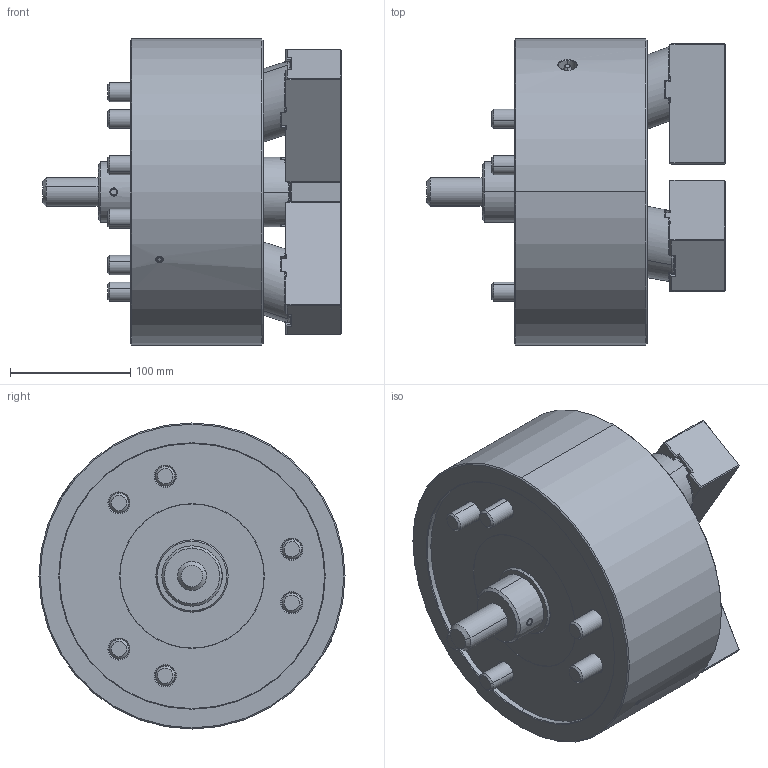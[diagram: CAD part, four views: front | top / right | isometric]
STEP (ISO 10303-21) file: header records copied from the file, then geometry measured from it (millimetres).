
FILE_DESCRIPTION (( 'STEP AP214' ), '1' );
FILE_NAME ('LU-10_UC.STEP', '2019-11-29T08:59:03', ( '' ), ( '' ), 'SwSTEP 2.0', 'SolidWorks 2017', '' );
FILE_SCHEMA (( 'AUTOMOTIVE_DESIGN' ));
Length unit declared in the file: millimetre
Products named in the file (4): LU-10_UC; 結合; 0030114030; 61P343367
Assembly tree (10 placements, depth 2):
  LU-10_UC
    61P343367  x3
    0030114030  x6
    結合
Bounding box: 248 x 254 x 254 mm (x, y, z)
Volume: 6167348.7 mm3; surface area: 425150.9 mm2
Topology: 10 solids, 11 shells, 1414 faces, 3450 edges, 2110 vertices
Faces by surface type: plane 798, cone 267, cylinder 201, bspline 116, torus 32
Entity records: 38729 total; most frequent: CARTESIAN_POINT 13651, ORIENTED_EDGE 5396, DIRECTION 4717, EDGE_CURVE 2698, VERTEX_POINT 1699, VECTOR 1623, LINE 1623, AXIS2_PLACEMENT_3D 1547
